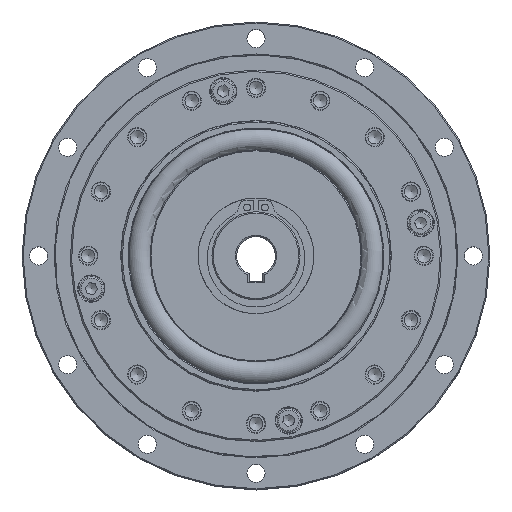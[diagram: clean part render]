
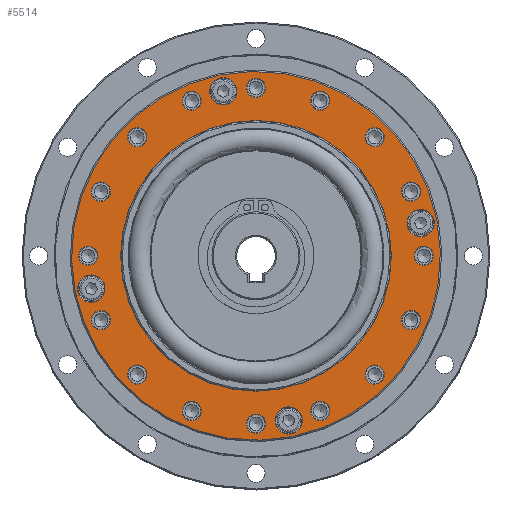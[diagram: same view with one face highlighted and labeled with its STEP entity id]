
A CAD part, top view. The second image highlights one B-rep face of the part: STEP entity #5514.
In plain terms, the highlighted planar face has unit normal (0, 0, 1).
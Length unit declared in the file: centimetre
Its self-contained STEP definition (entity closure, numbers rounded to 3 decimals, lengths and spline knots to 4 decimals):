
#650=PLANE('',#6213);
#970=FACE_BOUND('',#1991,.T.);
#971=FACE_BOUND('',#1992,.T.);
#972=FACE_BOUND('',#1993,.T.);
#973=FACE_BOUND('',#1994,.T.);
#974=FACE_BOUND('',#1995,.T.);
#975=FACE_BOUND('',#1996,.T.);
#976=FACE_BOUND('',#1997,.T.);
#977=FACE_BOUND('',#1998,.T.);
#978=FACE_BOUND('',#1999,.T.);
#979=FACE_BOUND('',#2000,.T.);
#980=FACE_BOUND('',#2001,.T.);
#981=FACE_BOUND('',#2002,.T.);
#982=FACE_BOUND('',#2003,.T.);
#983=FACE_BOUND('',#2004,.T.);
#984=FACE_BOUND('',#2005,.T.);
#985=FACE_BOUND('',#2006,.T.);
#986=FACE_BOUND('',#2007,.T.);
#987=FACE_BOUND('',#2008,.T.);
#988=FACE_BOUND('',#2009,.T.);
#989=FACE_BOUND('',#2010,.T.);
#990=FACE_BOUND('',#2011,.T.);
#991=FACE_BOUND('',#2012,.T.);
#1991=EDGE_LOOP('',(#4407));
#1992=EDGE_LOOP('',(#4408));
#1993=EDGE_LOOP('',(#4409));
#1994=EDGE_LOOP('',(#4410));
#1995=EDGE_LOOP('',(#4411));
#1996=EDGE_LOOP('',(#4412));
#1997=EDGE_LOOP('',(#4413));
#1998=EDGE_LOOP('',(#4414));
#1999=EDGE_LOOP('',(#4415));
#2000=EDGE_LOOP('',(#4416));
#2001=EDGE_LOOP('',(#4417));
#2002=EDGE_LOOP('',(#4418));
#2003=EDGE_LOOP('',(#4419));
#2004=EDGE_LOOP('',(#4420));
#2005=EDGE_LOOP('',(#4421));
#2006=EDGE_LOOP('',(#4422));
#2007=EDGE_LOOP('',(#4423));
#2008=EDGE_LOOP('',(#4424));
#2009=EDGE_LOOP('',(#4425));
#2010=EDGE_LOOP('',(#4426));
#2011=EDGE_LOOP('',(#4427));
#2012=EDGE_LOOP('',(#4428));
#2499=CIRCLE('',#6102,6.7);
#2517=CIRCLE('',#6138,0.495);
#2519=CIRCLE('',#6142,0.35);
#2521=CIRCLE('',#6146,0.35);
#2523=CIRCLE('',#6150,0.35);
#2525=CIRCLE('',#6154,0.35);
#2527=CIRCLE('',#6158,0.495);
#2529=CIRCLE('',#6162,0.35);
#2531=CIRCLE('',#6166,0.35);
#2533=CIRCLE('',#6170,0.35);
#2535=CIRCLE('',#6174,0.35);
#2537=CIRCLE('',#6178,0.495);
#2539=CIRCLE('',#6182,0.35);
#2541=CIRCLE('',#6186,0.35);
#2543=CIRCLE('',#6190,0.35);
#2545=CIRCLE('',#6194,0.35);
#2547=CIRCLE('',#6198,0.495);
#2549=CIRCLE('',#6202,0.35);
#2551=CIRCLE('',#6206,0.35);
#2553=CIRCLE('',#6210,0.35);
#2555=CIRCLE('',#6214,4.9189);
#2556=CIRCLE('',#6215,0.35);
#2926=VERTEX_POINT('',#9062);
#2944=VERTEX_POINT('',#9116);
#2946=VERTEX_POINT('',#9122);
#2948=VERTEX_POINT('',#9128);
#2950=VERTEX_POINT('',#9134);
#2952=VERTEX_POINT('',#9140);
#2954=VERTEX_POINT('',#9146);
#2956=VERTEX_POINT('',#9152);
#2958=VERTEX_POINT('',#9158);
#2960=VERTEX_POINT('',#9164);
#2962=VERTEX_POINT('',#9170);
#2964=VERTEX_POINT('',#9176);
#2966=VERTEX_POINT('',#9182);
#2968=VERTEX_POINT('',#9188);
#2970=VERTEX_POINT('',#9194);
#2972=VERTEX_POINT('',#9200);
#2974=VERTEX_POINT('',#9206);
#2976=VERTEX_POINT('',#9212);
#2978=VERTEX_POINT('',#9218);
#2980=VERTEX_POINT('',#9224);
#2982=VERTEX_POINT('',#9230);
#2983=VERTEX_POINT('',#9232);
#3465=EDGE_CURVE('',#2926,#2926,#2499,.T.);
#3483=EDGE_CURVE('',#2944,#2944,#2517,.T.);
#3485=EDGE_CURVE('',#2946,#2946,#2519,.T.);
#3487=EDGE_CURVE('',#2948,#2948,#2521,.T.);
#3489=EDGE_CURVE('',#2950,#2950,#2523,.T.);
#3491=EDGE_CURVE('',#2952,#2952,#2525,.T.);
#3493=EDGE_CURVE('',#2954,#2954,#2527,.T.);
#3495=EDGE_CURVE('',#2956,#2956,#2529,.T.);
#3497=EDGE_CURVE('',#2958,#2958,#2531,.T.);
#3499=EDGE_CURVE('',#2960,#2960,#2533,.T.);
#3501=EDGE_CURVE('',#2962,#2962,#2535,.T.);
#3503=EDGE_CURVE('',#2964,#2964,#2537,.T.);
#3505=EDGE_CURVE('',#2966,#2966,#2539,.T.);
#3507=EDGE_CURVE('',#2968,#2968,#2541,.T.);
#3509=EDGE_CURVE('',#2970,#2970,#2543,.T.);
#3511=EDGE_CURVE('',#2972,#2972,#2545,.T.);
#3513=EDGE_CURVE('',#2974,#2974,#2547,.T.);
#3515=EDGE_CURVE('',#2976,#2976,#2549,.T.);
#3517=EDGE_CURVE('',#2978,#2978,#2551,.T.);
#3519=EDGE_CURVE('',#2980,#2980,#2553,.T.);
#3521=EDGE_CURVE('',#2982,#2982,#2555,.T.);
#3522=EDGE_CURVE('',#2983,#2983,#2556,.T.);
#4407=ORIENTED_EDGE('',*,*,#3521,.T.);
#4408=ORIENTED_EDGE('',*,*,#3519,.F.);
#4409=ORIENTED_EDGE('',*,*,#3515,.F.);
#4410=ORIENTED_EDGE('',*,*,#3511,.F.);
#4411=ORIENTED_EDGE('',*,*,#3507,.F.);
#4412=ORIENTED_EDGE('',*,*,#3503,.F.);
#4413=ORIENTED_EDGE('',*,*,#3499,.F.);
#4414=ORIENTED_EDGE('',*,*,#3495,.F.);
#4415=ORIENTED_EDGE('',*,*,#3491,.F.);
#4416=ORIENTED_EDGE('',*,*,#3487,.F.);
#4417=ORIENTED_EDGE('',*,*,#3483,.F.);
#4418=ORIENTED_EDGE('',*,*,#3465,.F.);
#4419=ORIENTED_EDGE('',*,*,#3485,.F.);
#4420=ORIENTED_EDGE('',*,*,#3489,.F.);
#4421=ORIENTED_EDGE('',*,*,#3493,.F.);
#4422=ORIENTED_EDGE('',*,*,#3497,.F.);
#4423=ORIENTED_EDGE('',*,*,#3501,.F.);
#4424=ORIENTED_EDGE('',*,*,#3505,.F.);
#4425=ORIENTED_EDGE('',*,*,#3509,.F.);
#4426=ORIENTED_EDGE('',*,*,#3513,.F.);
#4427=ORIENTED_EDGE('',*,*,#3517,.F.);
#4428=ORIENTED_EDGE('',*,*,#3522,.F.);
#5514=ADVANCED_FACE('',(#970,#971,#972,#973,#974,#975,#976,#977,#978,#979,
#980,#981,#982,#983,#984,#985,#986,#987,#988,#989,#990,#991),#650,.T.);
#6102=AXIS2_PLACEMENT_3D('',#9063,#7376,#7377);
#6138=AXIS2_PLACEMENT_3D('',#9117,#7448,#7449);
#6142=AXIS2_PLACEMENT_3D('',#9123,#7456,#7457);
#6146=AXIS2_PLACEMENT_3D('',#9129,#7464,#7465);
#6150=AXIS2_PLACEMENT_3D('',#9135,#7472,#7473);
#6154=AXIS2_PLACEMENT_3D('',#9141,#7480,#7481);
#6158=AXIS2_PLACEMENT_3D('',#9147,#7488,#7489);
#6162=AXIS2_PLACEMENT_3D('',#9153,#7496,#7497);
#6166=AXIS2_PLACEMENT_3D('',#9159,#7504,#7505);
#6170=AXIS2_PLACEMENT_3D('',#9165,#7512,#7513);
#6174=AXIS2_PLACEMENT_3D('',#9171,#7520,#7521);
#6178=AXIS2_PLACEMENT_3D('',#9177,#7528,#7529);
#6182=AXIS2_PLACEMENT_3D('',#9183,#7536,#7537);
#6186=AXIS2_PLACEMENT_3D('',#9189,#7544,#7545);
#6190=AXIS2_PLACEMENT_3D('',#9195,#7552,#7553);
#6194=AXIS2_PLACEMENT_3D('',#9201,#7560,#7561);
#6198=AXIS2_PLACEMENT_3D('',#9207,#7568,#7569);
#6202=AXIS2_PLACEMENT_3D('',#9213,#7576,#7577);
#6206=AXIS2_PLACEMENT_3D('',#9219,#7584,#7585);
#6210=AXIS2_PLACEMENT_3D('',#9225,#7592,#7593);
#6213=AXIS2_PLACEMENT_3D('',#9229,#7598,#7599);
#6214=AXIS2_PLACEMENT_3D('',#9231,#7600,#7601);
#6215=AXIS2_PLACEMENT_3D('',#9233,#7602,#7603);
#7376=DIRECTION('center_axis',(0.,0.,-1.));
#7377=DIRECTION('ref_axis',(-0.981,-0.195,0.));
#7448=DIRECTION('center_axis',(0.,0.,1.));
#7449=DIRECTION('ref_axis',(-0.195,0.981,0.));
#7456=DIRECTION('center_axis',(0.,0.,1.));
#7457=DIRECTION('ref_axis',(-0.195,0.981,0.));
#7464=DIRECTION('center_axis',(0.,0.,1.));
#7465=DIRECTION('ref_axis',(-0.195,0.981,0.));
#7472=DIRECTION('center_axis',(0.,0.,1.));
#7473=DIRECTION('ref_axis',(-0.195,0.981,0.));
#7480=DIRECTION('center_axis',(0.,0.,1.));
#7481=DIRECTION('ref_axis',(-0.195,0.981,0.));
#7488=DIRECTION('center_axis',(0.,0.,1.));
#7489=DIRECTION('ref_axis',(-0.195,0.981,0.));
#7496=DIRECTION('center_axis',(0.,0.,1.));
#7497=DIRECTION('ref_axis',(-0.195,0.981,0.));
#7504=DIRECTION('center_axis',(0.,0.,1.));
#7505=DIRECTION('ref_axis',(-0.195,0.981,0.));
#7512=DIRECTION('center_axis',(0.,0.,1.));
#7513=DIRECTION('ref_axis',(-0.195,0.981,0.));
#7520=DIRECTION('center_axis',(0.,0.,1.));
#7521=DIRECTION('ref_axis',(-0.195,0.981,0.));
#7528=DIRECTION('center_axis',(0.,0.,1.));
#7529=DIRECTION('ref_axis',(-0.195,0.981,0.));
#7536=DIRECTION('center_axis',(0.,0.,1.));
#7537=DIRECTION('ref_axis',(-0.195,0.981,0.));
#7544=DIRECTION('center_axis',(0.,0.,1.));
#7545=DIRECTION('ref_axis',(-0.195,0.981,0.));
#7552=DIRECTION('center_axis',(0.,0.,1.));
#7553=DIRECTION('ref_axis',(-0.195,0.981,0.));
#7560=DIRECTION('center_axis',(0.,0.,1.));
#7561=DIRECTION('ref_axis',(-0.195,0.981,0.));
#7568=DIRECTION('center_axis',(0.,0.,1.));
#7569=DIRECTION('ref_axis',(-0.195,0.981,0.));
#7576=DIRECTION('center_axis',(0.,0.,1.));
#7577=DIRECTION('ref_axis',(-0.195,0.981,0.));
#7584=DIRECTION('center_axis',(0.,0.,1.));
#7585=DIRECTION('ref_axis',(-0.195,0.981,0.));
#7592=DIRECTION('center_axis',(0.,0.,1.));
#7593=DIRECTION('ref_axis',(-0.195,0.981,0.));
#7598=DIRECTION('center_axis',(0.,0.,1.));
#7599=DIRECTION('ref_axis',(0.195,-0.981,0.));
#7600=DIRECTION('center_axis',(0.,0.,
-1.));
#7601=DIRECTION('ref_axis',(1.,0.,0.));
#7602=DIRECTION('center_axis',(0.,0.,1.));
#7603=DIRECTION('ref_axis',(-0.195,0.981,0.));
#9062=CARTESIAN_POINT('',(6.5713,1.3071,4.55));
#9063=CARTESIAN_POINT('Origin',(0.,0.,4.55));
#9116=CARTESIAN_POINT('',(-5.8862,-1.6755,4.55));
#9117=CARTESIAN_POINT('Origin',(-5.9828,-1.1901,4.55));
#9122=CARTESIAN_POINT('',(-5.5674,-2.6776,4.55));
#9123=CARTESIAN_POINT('Origin',(-5.6357,-2.3344,4.55));
#9128=CARTESIAN_POINT('',(-4.2451,-4.6566,4.55));
#9129=CARTESIAN_POINT('Origin',(-4.3134,-4.3134,4.55));
#9134=CARTESIAN_POINT('',(-2.2661,-5.9789,4.55));
#9135=CARTESIAN_POINT('Origin',(-2.3344,-5.6357,4.55));
#9140=CARTESIAN_POINT('',(0.0683,-6.4433,4.55));
#9141=CARTESIAN_POINT('Origin',(0.,-6.1,4.55));
#9146=CARTESIAN_POINT('',(1.2866,-6.4683,4.55));
#9147=CARTESIAN_POINT('Origin',(1.1901,-5.9828,4.55));
#9152=CARTESIAN_POINT('',(2.4027,-5.9789,4.55));
#9153=CARTESIAN_POINT('Origin',(2.3344,-5.6357,4.55));
#9158=CARTESIAN_POINT('',(4.3816,-4.6566,4.55));
#9159=CARTESIAN_POINT('Origin',(4.3134,-4.3134,4.55));
#9164=CARTESIAN_POINT('',(5.7039,-2.6776,4.55));
#9165=CARTESIAN_POINT('Origin',(5.6357,-2.3344,4.55));
#9170=CARTESIAN_POINT('',(6.1683,-0.3433,4.55));
#9171=CARTESIAN_POINT('Origin',(6.1,0.,4.55));
#9176=CARTESIAN_POINT('',(6.0794,0.7046,4.55));
#9177=CARTESIAN_POINT('Origin',(5.9828,1.1901,4.55));
#9182=CARTESIAN_POINT('',(5.7039,1.9911,4.55));
#9183=CARTESIAN_POINT('Origin',(5.6357,2.3344,4.55));
#9188=CARTESIAN_POINT('',(4.3816,3.9701,4.55));
#9189=CARTESIAN_POINT('Origin',(4.3134,4.3134,4.55));
#9194=CARTESIAN_POINT('',(2.4027,5.2924,4.55));
#9195=CARTESIAN_POINT('Origin',(2.3344,5.6357,4.55));
#9200=CARTESIAN_POINT('',(0.0683,5.7567,4.55));
#9201=CARTESIAN_POINT('Origin',(0.,6.1,4.55));
#9206=CARTESIAN_POINT('',(-1.0935,5.4973,4.55));
#9207=CARTESIAN_POINT('Origin',(-1.1901,5.9828,4.55));
#9212=CARTESIAN_POINT('',(-2.2661,5.2924,4.55));
#9213=CARTESIAN_POINT('Origin',(-2.3344,5.6357,4.55));
#9218=CARTESIAN_POINT('',(-4.2451,3.9701,4.55));
#9219=CARTESIAN_POINT('Origin',(-4.3134,4.3134,4.55));
#9224=CARTESIAN_POINT('',(-5.5674,1.9911,4.55));
#9225=CARTESIAN_POINT('Origin',(-5.6357,2.3344,4.55));
#9229=CARTESIAN_POINT('Origin',(6.6301,1.3188,4.55));
#9230=CARTESIAN_POINT('',(0.,4.9189,4.55));
#9231=CARTESIAN_POINT('Origin',(0.,0.,
4.55));
#9232=CARTESIAN_POINT('',(-6.0317,-0.3433,4.55));
#9233=CARTESIAN_POINT('Origin',(-6.1,0.,4.55));
